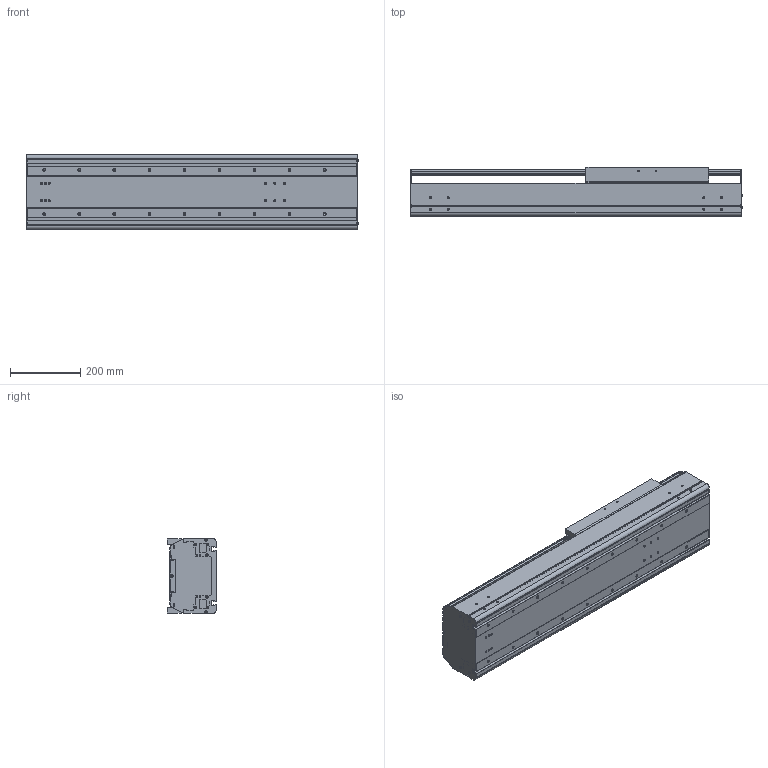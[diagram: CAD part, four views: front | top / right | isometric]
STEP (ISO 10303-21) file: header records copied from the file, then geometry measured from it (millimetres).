
FILE_DESCRIPTION((''),'2;1');
FILE_NAME('BE60G-ST-L_B-45_IGS_PRT','2017-06-18T',(' '),(''),'PRO/ENGINEER BY PARAMETRIC TECHNOLOGY CORPORATION, 2015030','PRO/ENGINEER BY PARAMETRIC TECHNOLOGY CORPORATION, 2015030','');
FILE_SCHEMA(('CONFIG_CONTROL_DESIGN'));
Length unit declared in the file: millimetre
Products named in the file (1): BE60G-ST-L_B-45_IGS_PRT
Bounding box: 947.4 x 140 x 214 mm (x, y, z)
Volume: 8403581.3 mm3; surface area: 2180843.6 mm2
Topology: 2 solids, 120 shells, 1446 faces, 3998 edges, 2617 vertices
Faces by surface type: cylinder 712, plane 590, cone 96, sphere 24, torus 24
Entity records: 47684 total; most frequent: CARTESIAN_POINT 10360, DIRECTION 7926, ORIENTED_EDGE 7344, EDGE_CURVE 3904, AXIS2_PLACEMENT_3D 2933, VERTEX_POINT 2616, VECTOR 2060, LINE 2060
